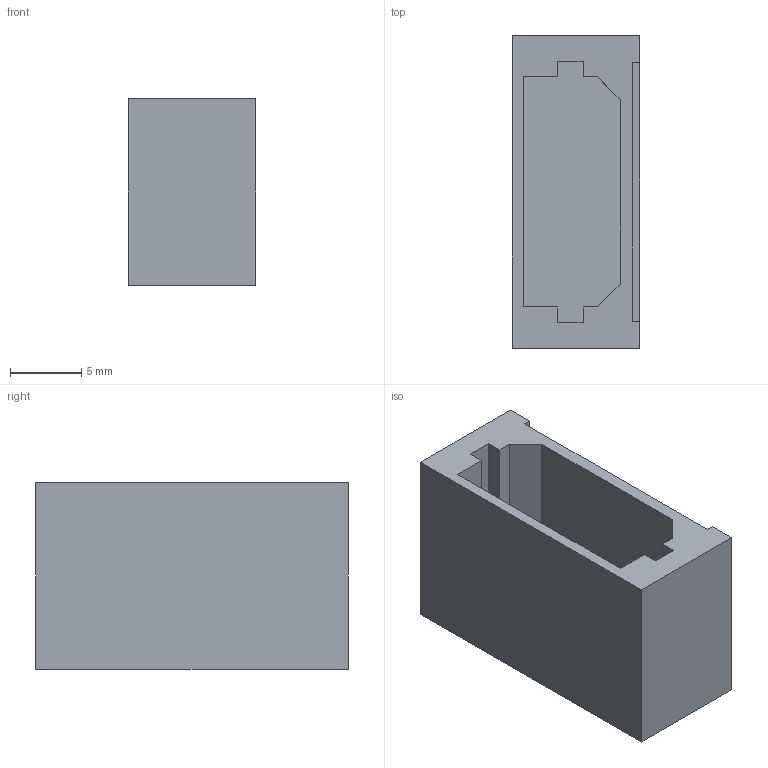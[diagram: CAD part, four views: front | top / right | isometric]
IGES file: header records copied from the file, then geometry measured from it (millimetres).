
Start section:  PTC IGES file: j4b-cn1_1.igs
Global section: file name: j4b-cn1_1.igs; native system: Creo Parametric by Parametric Technology Corporation; preprocessor: 2014310; author: JR20012; organization: Unknown; date: 20160927.133802; units: millimetre
Bounding box: 9 x 22 x 13.1 mm (x, y, z)
Volume: 1717.8 mm3; surface area: 1565.6 mm2
Topology: 1 solids, 1 shells, 25 faces, 66 edges, 44 vertices
Faces by surface type: bspline 25
